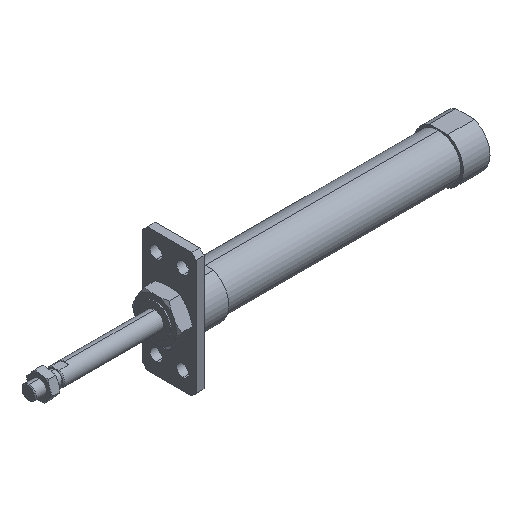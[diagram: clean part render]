
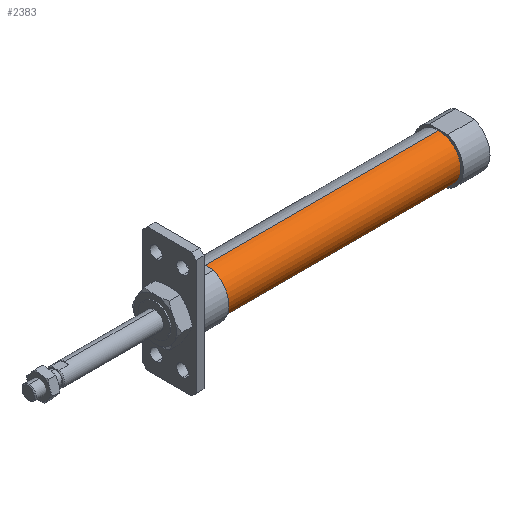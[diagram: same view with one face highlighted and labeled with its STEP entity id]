
A CAD part, isometric view. The second image highlights one B-rep face of the part: STEP entity #2383.
In plain terms, the highlighted cylindrical face has radius 12.5 mm (diameter 25 mm), a partial arc.
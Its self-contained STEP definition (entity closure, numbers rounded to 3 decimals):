
#45 = EDGE_LOOP ( 'NONE', ( #3316, #3590, #2619, #321 ) ) ;
#214 = VECTOR ( 'NONE', #1103, 1000. ) ;
#271 = CARTESIAN_POINT ( 'NONE',  ( -6.469, 0., 12.5 ) ) ;
#309 = CARTESIAN_POINT ( 'NONE',  ( -6.469, 0., 0. ) ) ;
#321 = ORIENTED_EDGE ( 'NONE', *, *, #2443, .F. ) ;
#399 = AXIS2_PLACEMENT_3D ( 'NONE', #940, #1779, #1754 ) ;
#647 = CARTESIAN_POINT ( 'NONE',  ( 99., 0., -12.5 ) ) ;
#789 = DIRECTION ( 'NONE',  ( 0., 0., 1. ) ) ;
#863 = DIRECTION ( 'NONE',  ( -1., 0., 0. ) ) ;
#877 = FACE_OUTER_BOUND ( 'NONE', #45, .T. ) ;
#902 = VERTEX_POINT ( 'NONE', #987 ) ;
#913 = CARTESIAN_POINT ( 'NONE',  ( 231., 0., -12.5 ) ) ;
#940 = CARTESIAN_POINT ( 'NONE',  ( 99., 0., 0. ) ) ;
#987 = CARTESIAN_POINT ( 'NONE',  ( 231., 0., 12.5 ) ) ;
#1057 = CARTESIAN_POINT ( 'NONE',  ( 99., 0., 12.5 ) ) ;
#1103 = DIRECTION ( 'NONE',  ( -1., 0., 0. ) ) ;
#1160 = EDGE_CURVE ( 'NONE', #2737, #2064, #1717, .T. ) ;
#1269 = CIRCLE ( 'NONE', #399, 12.5 ) ;
#1410 = CYLINDRICAL_SURFACE ( 'NONE', #2687, 12.5 ) ;
#1419 = CARTESIAN_POINT ( 'NONE',  ( -6.469, 0., -12.5 ) ) ;
#1717 = LINE ( 'NONE', #1419, #214 ) ;
#1740 = EDGE_CURVE ( 'NONE', #2737, #902, #3665, .T. ) ;
#1754 = DIRECTION ( 'NONE',  ( 0., 0., 1. ) ) ;
#1779 = DIRECTION ( 'NONE',  ( -1., 0., 0. ) ) ;
#1916 = CARTESIAN_POINT ( 'NONE',  ( 231., 0., 0. ) ) ;
#2064 = VERTEX_POINT ( 'NONE', #647 ) ;
#2114 = LINE ( 'NONE', #271, #2472 ) ;
#2292 = DIRECTION ( 'NONE',  ( 0., 0., 1. ) ) ;
#2383 = ADVANCED_FACE ( 'NONE', ( #877 ), #1410, .T. ) ;
#2443 = EDGE_CURVE ( 'NONE', #2064, #3038, #1269, .T. ) ;
#2472 = VECTOR ( 'NONE', #863, 1000. ) ;
#2520 = DIRECTION ( 'NONE',  ( -1., 0., 0. ) ) ;
#2544 = DIRECTION ( 'NONE',  ( -1., 0., 0. ) ) ;
#2602 = EDGE_CURVE ( 'NONE', #902, #3038, #2114, .T. ) ;
#2619 = ORIENTED_EDGE ( 'NONE', *, *, #2602, .T. ) ;
#2687 = AXIS2_PLACEMENT_3D ( 'NONE', #309, #2544, #2292 ) ;
#2737 = VERTEX_POINT ( 'NONE', #913 ) ;
#3038 = VERTEX_POINT ( 'NONE', #1057 ) ;
#3285 = AXIS2_PLACEMENT_3D ( 'NONE', #1916, #2520, #789 ) ;
#3316 = ORIENTED_EDGE ( 'NONE', *, *, #1160, .F. ) ;
#3590 = ORIENTED_EDGE ( 'NONE', *, *, #1740, .T. ) ;
#3665 = CIRCLE ( 'NONE', #3285, 12.5 ) ;
